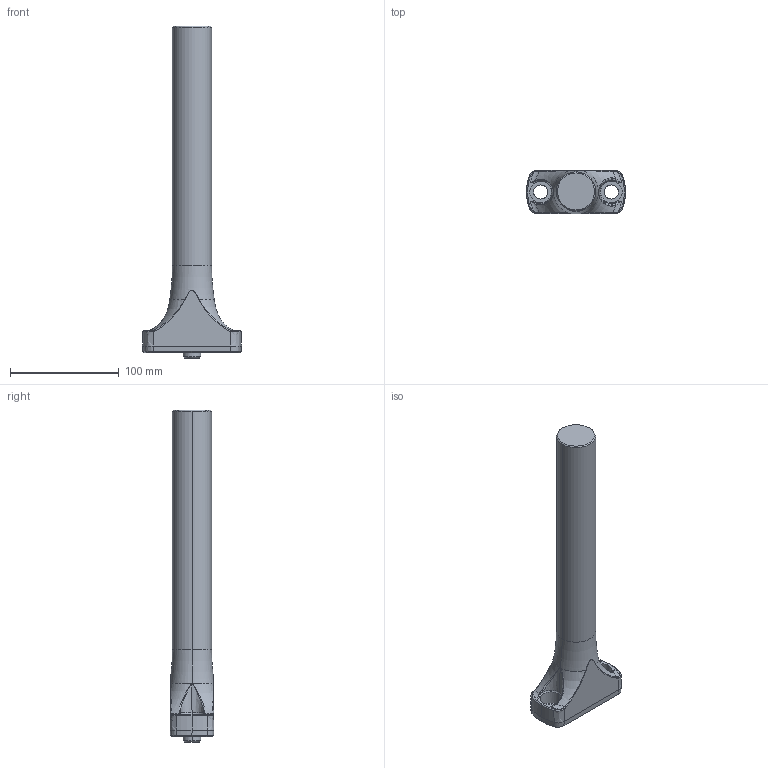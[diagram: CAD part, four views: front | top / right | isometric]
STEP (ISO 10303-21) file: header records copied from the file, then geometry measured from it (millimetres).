
FILE_DESCRIPTION(('CATIA V5 STEP Exchange'),'2;1');
FILE_NAME('C:\Users\Utente\Desktop\IO LAVORO\3D X SITO CF\ULTIMI CATALOGO VERDE\3D files 722\722-01+300.stp','2020-11-14T10:03:00+00:00',('none'),('none'),'CATIA Version 5 Release 20 GA (IN-10)','CATIA V5 STEP AP203','none');
FILE_SCHEMA(('CONFIG_CONTROL_DESIGN'));
Length unit declared in the file: millimetre
Products named in the file (1): 722-01+300
Bounding box: 91 x 40 x 305 mm (x, y, z)
Volume: 369387.9 mm3; surface area: 45659.4 mm2
Topology: 1 solids, 1 shells, 123 faces, 337 edges, 213 vertices
Faces by surface type: bspline 54, cone 20, torus 18, cylinder 16, plane 15
Entity records: 5732 total; most frequent: CARTESIAN_POINT 3337, ORIENTED_EDGE 666, EDGE_CURVE 333, DIRECTION 244, VERTEX_POINT 213, B_SPLINE_CURVE_WITH_KNOTS 157, AXIS2_PLACEMENT_3D 134, EDGE_LOOP 128
